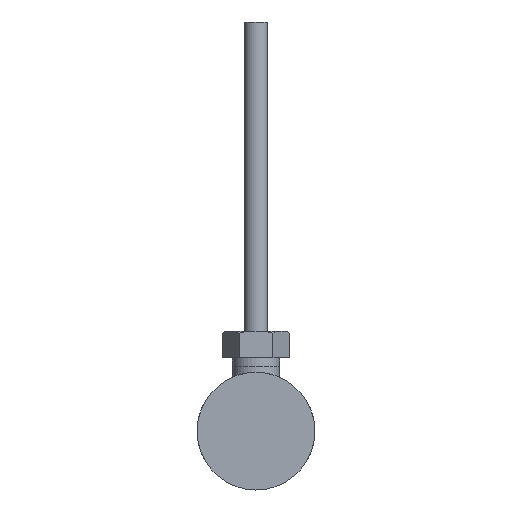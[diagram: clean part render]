
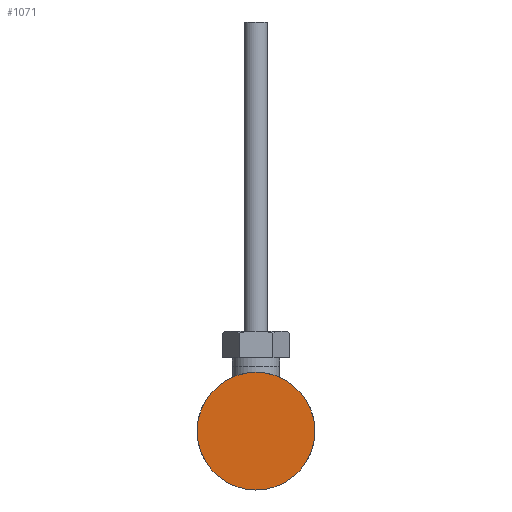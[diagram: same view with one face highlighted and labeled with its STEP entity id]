
A CAD part, front view. The second image highlights one B-rep face of the part: STEP entity #1071.
In plain terms, the highlighted planar face has unit normal (0, -1, 0) as drawn and (-1, 0, 0) by its records, which use the part's own axes.
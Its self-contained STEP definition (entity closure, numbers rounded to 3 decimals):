
#132=PLANE('',#1724);
#315=ORIENTED_EDGE('',*,*,#476,.F.);
#476=EDGE_CURVE('',#575,#575,#654,.T.);
#575=VERTEX_POINT('',#2392);
#654=CIRCLE('',#1718,10.);
#762=EDGE_LOOP('',(#315));
#924=FACE_BOUND('',#762,.T.);
#1071=ADVANCED_FACE('',(#924),#132,.F.);
#1718=AXIS2_PLACEMENT_3D('',#2391,#1966,#1967);
#1724=AXIS2_PLACEMENT_3D('',#2457,#1978,#1979);
#1966=DIRECTION('',(1.,0.,0.));
#1967=DIRECTION('',(0.,1.,0.));
#1978=DIRECTION('',(1.,0.,0.));
#1979=DIRECTION('',(0.,1.,0.));
#2391=CARTESIAN_POINT('',(0.,0.,0.));
#2392=CARTESIAN_POINT('',(0.,10.,0.));
#2457=CARTESIAN_POINT('',(0.,0.,0.));
